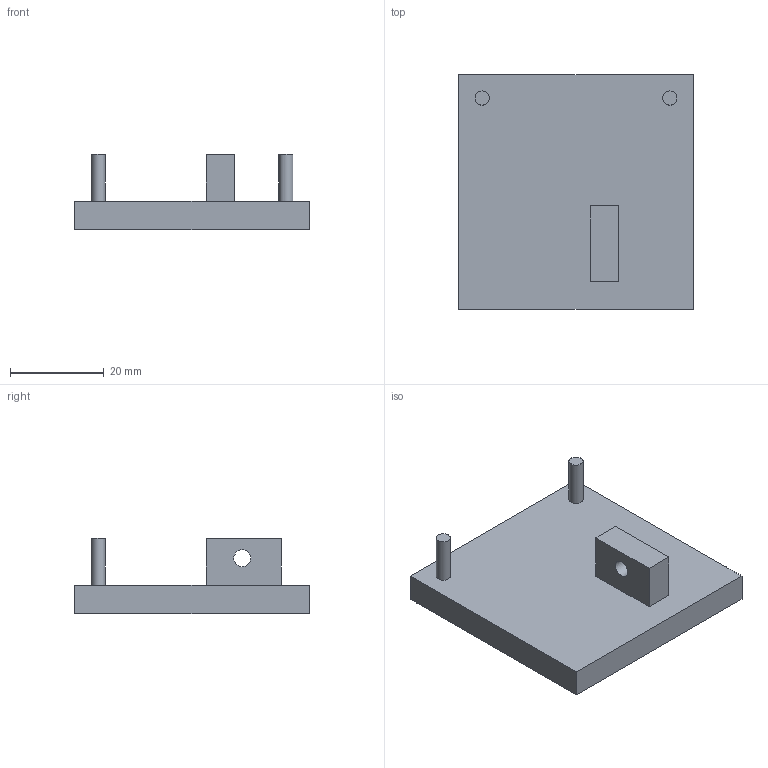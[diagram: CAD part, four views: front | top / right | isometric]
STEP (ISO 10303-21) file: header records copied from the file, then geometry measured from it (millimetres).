
FILE_DESCRIPTION(/* description */ ('STEP AP242 Edition 2','CAx-IF Rec.Pracs.---Representation and Presentation of Product Manufacturing Information (PMI)---4.0---2014-10-13','CAx-IF Rec.Pracs.---3D Tessellated Geometry---0.4---2014-09-14','2;1','CAx-IF Rec.Pracs.---User Defined Attributes---1.5---2016-08-15'),/* implementation_level */ '2;1');
FILE_NAME(/* name */ 'Arm Parts - Slider',/* time_stamp */ '2026-04-22T00:04:14Z',/* author */ (''),/* organization */ (''),/* preprocessor_version */ 'ST-DEVELOPER v20',/* originating_system */ 'ONSHAPE BY PTC INC, 1.213',/* authorisation */ ' ');
FILE_SCHEMA (('AP242_MANAGED_MODEL_BASED_3D_ENGINEERING_MIM_LF { 1 0 10303 442 3 1 4 }'));
Length unit declared in the file: metre
Products named in the file (1): Slider
Bounding box: 50 x 50 x 16 mm (x, y, z)
Volume: 16040.3 mm3; surface area: 6876 mm2
Topology: 1 solids, 1 shells, 16 faces, 34 edges, 23 vertices
Faces by surface type: plane 13, cylinder 3
Full cylindrical faces by diameter (mm): 3 x2, 3.6 x1
Entity records: 434 total; most frequent: DIRECTION 70, CARTESIAN_POINT 69, ORIENTED_EDGE 60, EDGE_CURVE 30, LINE 24, VECTOR 24, EDGE_LOOP 24, FACE_BOUND 24
